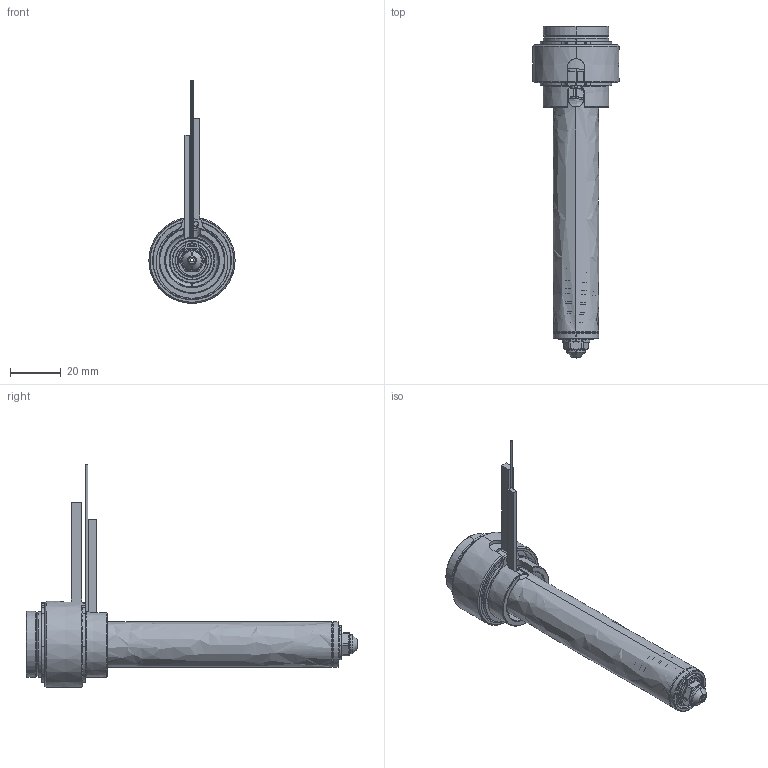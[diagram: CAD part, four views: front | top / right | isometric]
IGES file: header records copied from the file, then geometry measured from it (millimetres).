
Start section: SolidWorks IGES file using analytic representation for surfaces
Global section: file name: C:\Documents and Settings\ws-20\Desktop\TEM\UGER2504-S-A-0 [Øb-1.30 ØC-4.0].IGS; native system: SolidWorks 2012; preprocessor: SolidWorks 2012; author: ws-20; date: 120405.102122; units: millimetre
Bounding box: 34 x 130.9 x 87.9 mm (x, y, z)
Surface area: 22665 mm2 (no closed solid volume)
Topology: 0 solids, 0 shells, 193 faces, 2493 edges, 2493 vertices
Faces by surface type: revolution 122, bspline 71
